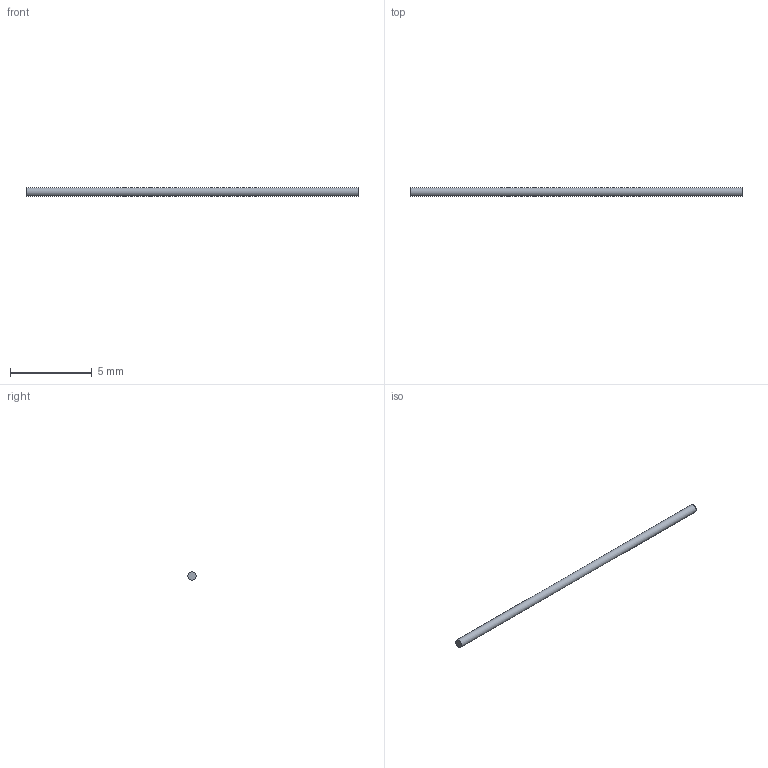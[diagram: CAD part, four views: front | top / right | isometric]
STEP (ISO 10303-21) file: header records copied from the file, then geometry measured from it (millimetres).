
FILE_DESCRIPTION(('FreeCAD Model'),'2;1');
FILE_NAME('Open CASCADE Shape Model','2026-04-07T19:07:43',('FreeCAD'),( 'FreeCAD'),'Open CASCADE STEP processor 7.8','FreeCAD','Unknown');
FILE_SCHEMA(('AUTOMOTIVE_DESIGN { 1 0 10303 214 1 1 1 1 }'));
Length unit declared in the file: millimetre
Products named in the file (1): Open CASCADE STEP translator 7.8 23
Bounding box: 20.32 x 0.5 x 0.5 mm (x, y, z)
Volume: 4 mm3; surface area: 32.3 mm2
Topology: 1 solids, 1 shells, 3 faces, 3 edges, 2 vertices
Faces by surface type: plane 2, cylinder 1
Full cylindrical faces by diameter (mm): 0.5 x1
Entity records: 69 total; most frequent: DIRECTION 13, CARTESIAN_POINT 9, AXIS2_PLACEMENT_3D 6, ORIENTED_EDGE 6, ADVANCED_FACE 3, FACE_BOUND 3, EDGE_LOOP 3, EDGE_CURVE 3
